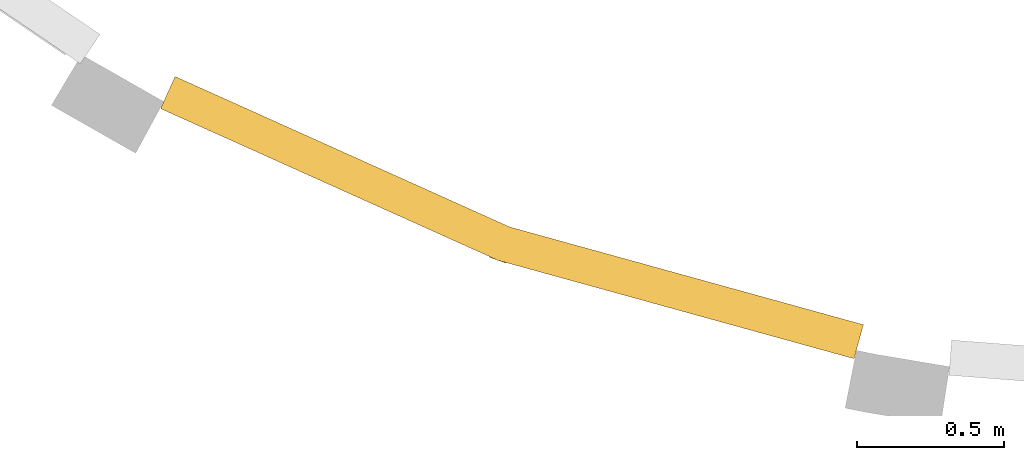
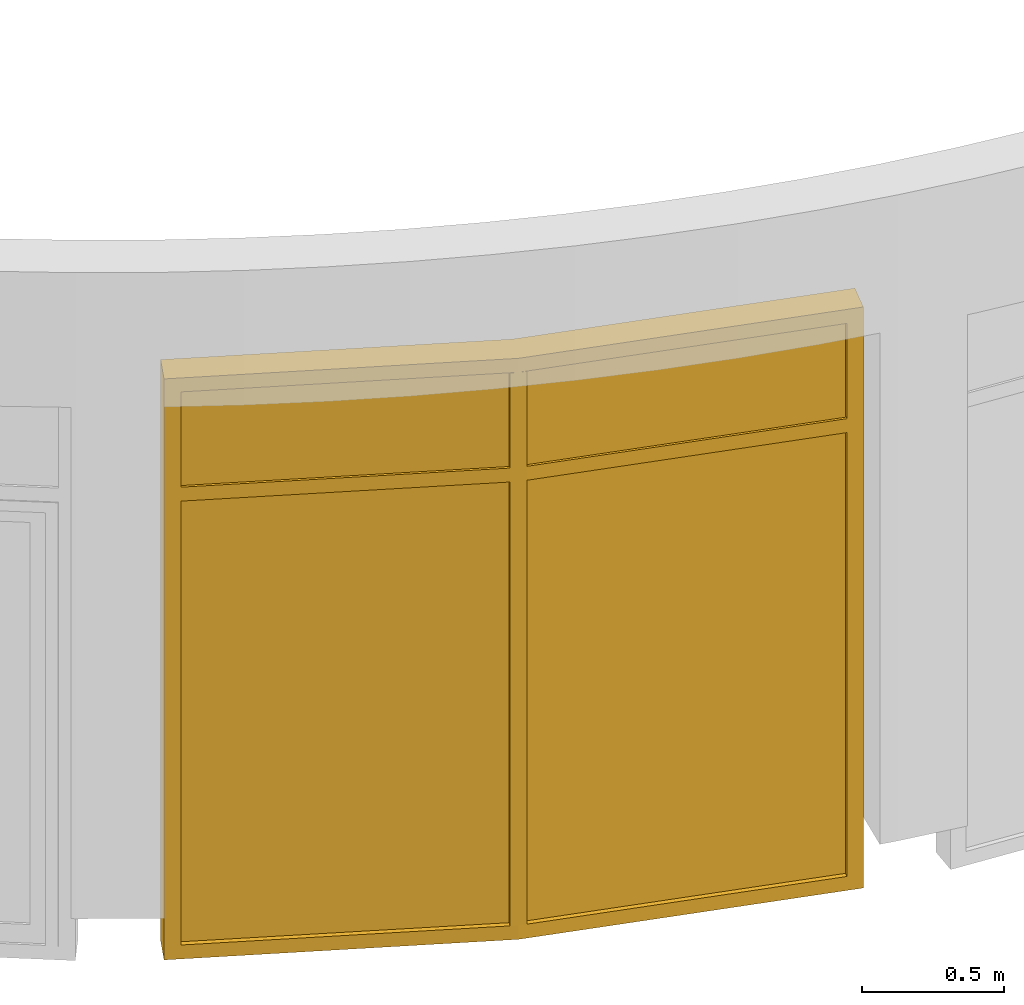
# One storey, part 2 of 7: 1 curtain wall.
"""IFC4 building model written with IfcOpenShell, lengths in millimetres."""

import ifcopenshell
import ifcopenshell.guid

model = None  # the IFC model being written
_history = None  # IfcOwnerHistory: only IFC2X3 demands one
_inside = {}  # id of a spatial element -> (the spatial element, [elements in it])
_under = {}  # id of a project, library or spatial element -> (it, [spatial elements below it])
_declared = {}  # id of a project -> (the project, [libraries it declares])
_typed = {}  # id of a type object -> (the type object, [elements of that type])
_made_of = {}  # id of a material, layer set ... -> (it, [elements and type objects made of it])


def new_model(schema):
    """Start an empty IFC model of exactly this schema.

    Asked for "IFC4X3", IfcOpenShell would pick the latest addendum, in which some entities
    have other attributes; the version numbers below select the first issue.
    IFC2X3 requires an IfcOwnerHistory on every rooted entity: one is made here for all.
    """
    global model, _history
    if schema == "IFC4X3":
        model = ifcopenshell.file(schema_version=(4, 3, 0, 0))
    else:
        model = ifcopenshell.file(schema=schema)
    _inside.clear()
    _under.clear()
    _declared.clear()
    _typed.clear()
    _made_of.clear()
    _history = None
    if model.schema == "IFC2X3":
        org = make("IfcOrganization", Name="unknown")
        user = make(
            "IfcPersonAndOrganization",
            ThePerson=make("IfcPerson", FamilyName="unknown"),
            TheOrganization=org,
        )
        app = make(
            "IfcApplication",
            ApplicationDeveloper=org,
            Version="unknown",
            ApplicationFullName="unknown",
            ApplicationIdentifier="unknown",
        )
        _history = make(
            "IfcOwnerHistory",
            OwningUser=user,
            OwningApplication=app,
            ChangeAction="ADDED",
            CreationDate=0,
        )
    return model


def make(cls, **values):
    """One entity of the class cls with the attributes given. An attribute that is None is left unset."""
    return model.create_entity(
        cls, **{name: value for name, value in values.items() if value is not None}
    )


def entity(cls, *values):
    """Any entity or typed value of the class cls, its attributes in the order of the schema. None: left unset."""
    e = model.create_entity(cls)
    for i, value in enumerate(values):
        if value is not None:
            e[i] = value
    return e


def rooted(cls, **values):
    """An entity with a GlobalId (a new one), such as an element, a storey or a relation."""
    return make(cls, GlobalId=ifcopenshell.guid.new(), OwnerHistory=_history, **values)


def si_unit(unit_type, name, prefix=None):
    """IfcSIUnit, for example si_unit("LENGTHUNIT", "METRE", prefix="MILLI")."""
    return make("IfcSIUnit", UnitType=unit_type, Prefix=prefix, Name=name)


def converted_unit(unit_type, name, factor, base, dimensions=None, offset=None):
    """IfcConversionBasedUnit, such as the inch: factor (a typed value) times the base unit."""
    return make(
        "IfcConversionBasedUnit"
        if offset is None
        else "IfcConversionBasedUnitWithOffset",
        ConversionOffset=offset,
        Dimensions=None
        if dimensions is None
        else entity("IfcDimensionalExponents", *dimensions),
        UnitType=unit_type,
        Name=name,
        ConversionFactor=make(
            "IfcMeasureWithUnit", ValueComponent=factor, UnitComponent=base
        ),
    )


def derived_unit(unit_type, elements):
    """IfcDerivedUnit: a product of units, each with its exponent."""
    return make(
        "IfcDerivedUnit",
        Elements=[
            make("IfcDerivedUnitElement", Unit=unit, Exponent=power)
            for unit, power in elements
        ],
        UnitType=unit_type,
    )


def assignment(units):
    """IfcUnitAssignment: the units of a project."""
    return None if units is None else make("IfcUnitAssignment", Units=units)


def point(xyz):
    """IfcCartesianPoint."""
    return None if xyz is None else make("IfcCartesianPoint", Coordinates=xyz)


def direction(xyz):
    """IfcDirection."""
    return None if xyz is None else make("IfcDirection", DirectionRatios=xyz)


def frame(location, z_axis=None, x_axis=None):
    """IfcAxis2Placement3D, a coordinate frame: its origin and axes. An axis left out is left unset."""
    return make(
        "IfcAxis2Placement3D",
        Location=point(location),
        Axis=direction(z_axis),
        RefDirection=direction(x_axis),
    )


def origin_with_axes():
    """The frame at (0, 0, 0) with the z axis (0, 0, 1) and the x axis (1, 0, 0) written out."""
    return frame((0.0, 0.0, 0.0), z_axis=(0.0, 0.0, 1.0), x_axis=(1.0, 0.0, 0.0))


def place(relative_to, where):
    """IfcLocalPlacement: puts the frame where relative to a parent placement (None: the world)."""
    return make(
        "IfcLocalPlacement", PlacementRelTo=relative_to, RelativePlacement=where
    )


def context(
    kind, dimensions, precision=None, world=None, true_north=None, identifier=None
):
    """IfcGeometricRepresentationContext, for example the 3D "Model" context."""
    return make(
        "IfcGeometricRepresentationContext",
        ContextIdentifier=identifier,
        ContextType=kind,
        CoordinateSpaceDimension=dimensions,
        Precision=precision,
        WorldCoordinateSystem=world,
        TrueNorth=true_north,
    )


def subcontext(parent, identifier, kind, view, scale=None):
    """IfcGeometricRepresentationSubContext, for example "Body" below "Model"."""
    return make(
        "IfcGeometricRepresentationSubContext",
        ContextIdentifier=identifier,
        ContextType=kind,
        ParentContext=parent,
        TargetScale=scale,
        TargetView=view,
    )


def project(units=None, contexts=None):
    """IfcProject with its units and contexts."""
    return rooted(
        "IfcProject",
        Name="project",
        RepresentationContexts=contexts,
        UnitsInContext=assignment(units),
    )


def spatial(cls, under=None, at=None, **own):
    """A site, building, storey or space (cls), placed at a placement, below another one or the project."""
    s = rooted(cls, ObjectPlacement=at, **own)
    if under is not None:
        _under.setdefault(under.id(), (under, []))[1].append(s)
    return s


def point_list(points):
    """IfcCartesianPointList2D or 3D."""
    cls = (
        "IfcCartesianPointList2D" if len(points[0]) == 2 else "IfcCartesianPointList3D"
    )
    return make(cls, CoordList=points)


def polygons(points, faces, closed=None, point_numbers=None):
    """IfcPolygonalFaceSet: a face is its outer loop, then its inner loops; points numbered from 1."""
    made = []
    for loops in faces:
        if len(loops) == 1:
            made.append(make("IfcIndexedPolygonalFace", CoordIndex=loops[0]))
        else:
            made.append(
                make(
                    "IfcIndexedPolygonalFaceWithVoids",
                    CoordIndex=loops[0],
                    InnerCoordIndices=loops[1:],
                )
            )
    return make(
        "IfcPolygonalFaceSet",
        Coordinates=point_list(points),
        Closed=closed,
        Faces=made,
        PnIndex=point_numbers,
    )


def shape(context_of_items, identifier, shape_type, items):
    """IfcShapeRepresentation: the items that make up one representation, for example the "Body"."""
    return make(
        "IfcShapeRepresentation",
        ContextOfItems=context_of_items,
        RepresentationIdentifier=identifier,
        RepresentationType=shape_type,
        Items=items,
    )


def material(Name=None, Category=None):
    """IfcMaterial."""
    return make("IfcMaterial", Name=Name, Category=Category)


def constituent(of_material, Name=None, Category=None, fraction=None):
    """IfcMaterialConstituent: one of the materials an element consists of."""
    return make(
        "IfcMaterialConstituent",
        Name=Name,
        Material=of_material,
        Fraction=fraction,
        Category=Category,
    )


def constituent_set(constituents=None, Name=None):
    """IfcMaterialConstituentSet."""
    return make(
        "IfcMaterialConstituentSet", Name=Name, MaterialConstituents=constituents
    )


def made_of(thing, what):
    """Note that an element or type object is made of a material, layer set ...; save() writes the relation."""
    if what is not None:
        _made_of.setdefault(what.id(), (what, []))[1].append(thing)
    return thing


def type_object(cls, material=None, **own):
    """A type object (cls), such as IfcWallType, which elements share."""
    return made_of(rooted(cls, **own), material)


def element(
    cls,
    number,
    at=None,
    inside=None,
    cuts=None,
    type_object=None,
    material=None,
    context=None,
    identifier="Body",
    shape_type=None,
    held_by="IfcProductDefinitionShape",
    body=None,
    shapes=None,
    **own,
):
    """One element of the class cls, such as IfcWall. Its Tag is "e" and its number.

    at: its placement. inside: the storey or other place that contains it. cuts: it is an
    opening in that element (IfcRelVoidsElement). A single representation is given by context,
    identifier, shape_type and body (its items); several are given by shapes. held_by: the class
    of the entity that holds the representations. save() writes the other relations.
    """
    e = rooted(cls, Tag="e%d" % number, ObjectPlacement=at, **own)
    if body is not None:
        shapes = [shape(context, identifier, shape_type, body)]
    if shapes is not None:
        e.Representation = make(held_by, Representations=shapes)
    if inside is not None:
        _inside.setdefault(inside.id(), (inside, []))[1].append(e)
    if cuts is not None:
        rooted(
            "IfcRelVoidsElement", RelatingBuildingElement=cuts, RelatedOpeningElement=e
        )
    if type_object is not None:
        _typed.setdefault(type_object.id(), (type_object, []))[1].append(e)
    return made_of(e, material)


def aggregate(whole, parts):
    """IfcRelAggregates: a whole, such as a stair, and the parts it consists of."""
    return rooted("IfcRelAggregates", RelatingObject=whole, RelatedObjects=parts)


def save(model, path):
    """Write the relations noted so far, then the file.

    IfcRelAggregates (storeys below a building ...), IfcRelContainedInSpatialStructure (elements
    in a storey), IfcRelDefinesByType, IfcRelAssociatesMaterial and IfcRelDeclares: one each for
    every whole, place, type object, material and project.
    """
    for whole, parts in _under.values():
        aggregate(whole, parts)
    for where, things in _inside.values():
        rooted(
            "IfcRelContainedInSpatialStructure",
            RelatedElements=things,
            RelatingStructure=where,
        )
    for kind, things in _typed.values():
        rooted("IfcRelDefinesByType", RelatedObjects=things, RelatingType=kind)
    for what, things in _made_of.values():
        rooted("IfcRelAssociatesMaterial", RelatedObjects=things, RelatingMaterial=what)
    for by, libraries in _declared.values():
        rooted("IfcRelDeclares", RelatingContext=by, RelatedDefinitions=libraries)
    model.write(path)


model = new_model("IFC4")

# Units and contexts
model_context = context("Model", 3, precision=0.01, world=origin_with_axes(), true_north=direction((0.0, 1.0)))
body_context = subcontext(model_context, "Body", "Model", "MODEL_VIEW")
ifc_project = project(units=[si_unit("LENGTHUNIT", "METRE", prefix="MILLI"), si_unit("AREAUNIT", "SQUARE_METRE"), si_unit("VOLUMEUNIT", "CUBIC_METRE"), converted_unit("PLANEANGLEUNIT", "DEGREE", entity("IfcPlaneAngleMeasure", 0.0174532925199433), si_unit("PLANEANGLEUNIT", "RADIAN"), dimensions=[0, 0, 0, 0, 0, 0, 0]), converted_unit("TIMEUNIT", "Year", entity("IfcTimeMeasure", 31557600.0), si_unit("TIMEUNIT", "SECOND"), dimensions=[0, 0, 1, 0, 0, 0, 0]), si_unit("MASSUNIT", "GRAM", prefix="KILO"), si_unit("THERMODYNAMICTEMPERATUREUNIT", "DEGREE_CELSIUS"), si_unit("LUMINOUSINTENSITYUNIT", "LUMEN"), si_unit("ENERGYUNIT", "JOULE", prefix="MEGA"), derived_unit("THERMALCONDUCTANCEUNIT", [(si_unit("POWERUNIT", "WATT"), 1), (si_unit("LENGTHUNIT", "METRE"), -1), (si_unit("THERMODYNAMICTEMPERATUREUNIT", "KELVIN"), -1)]), derived_unit("SPECIFICHEATCAPACITYUNIT", [(si_unit("ENERGYUNIT", "JOULE"), 1), (si_unit("MASSUNIT", "GRAM", prefix="KILO"), -1), (si_unit("THERMODYNAMICTEMPERATUREUNIT", "KELVIN"), -1)]), derived_unit("MASSDENSITYUNIT", [(si_unit("MASSUNIT", "GRAM", prefix="KILO"), 1), (si_unit("VOLUMEUNIT", "CUBIC_METRE"), -1)])], contexts=[model_context])

# Site, building, storey
site_placement = place(None, origin_with_axes())
site = spatial("IfcSite", under=ifc_project, at=site_placement, Name="Exteriér", CompositionType="ELEMENT")
building_placement = place(site_placement, origin_with_axes())
building = spatial("IfcBuilding", under=site, at=building_placement, Name="Univerzitní lezecké centrum", CompositionType="ELEMENT")
storey_placement = place(building_placement, origin_with_axes())
storey = spatial("IfcBuildingStorey", under=building, at=storey_placement, Name="1.NP", CompositionType="ELEMENT", Elevation=0.0)

# Curtain wall
ifc_material_1 = material(Name="Sklo")
ifc_constituent_1 = constituent(ifc_material_1, Name="Sklo 1")
ifc_constituent_2 = constituent(ifc_material_1, Name="Sklo 2")
ifc_constituent_3 = constituent(ifc_material_1, Name="Sklo 3")
ifc_constituent_4 = constituent(ifc_material_1, Name="Sklo 4")
ifc_material_2 = material(Name="Hliník")
ifc_constituent_5 = constituent(ifc_material_2, Name="Hliník 1")
ifc_constituent_6 = constituent(ifc_material_2, Name="Hliník 2")
ifc_constituent_7 = constituent(ifc_material_2, Name="Hliník 3")
ifc_constituent_8 = constituent(ifc_material_2, Name="Hliník 4")
ifc_constituent_9 = constituent(ifc_material_2, Name="Hliník 5")
ifc_constituent_10 = constituent(ifc_material_2, Name="Hliník 6")
ifc_constituent_11 = constituent(ifc_material_2, Name="Hliník 7")
ifc_constituent_12 = constituent(ifc_material_2, Name="Hliník 8")
ifc_constituent_13 = constituent(ifc_material_2, Name="Hliník 9")
ifc_constituent_14 = constituent(ifc_material_2, Name="Hliník 10")
ifc_constituent_15 = constituent(ifc_material_2, Name="Hliník 11")
ifc_constituent_16 = constituent(ifc_material_2, Name="Hliník 12")
ifc_constituent_set = constituent_set(constituents=[ifc_constituent_1, ifc_constituent_2, ifc_constituent_3, ifc_constituent_4, ifc_constituent_5, ifc_constituent_6, ifc_constituent_7, ifc_constituent_8, ifc_constituent_9, ifc_constituent_10, ifc_constituent_11, ifc_constituent_12, ifc_constituent_13, ifc_constituent_14, ifc_constituent_15, ifc_constituent_16])
curtain_wall_type = type_object("IfcCurtainWallType", Name="Typ lehkého obvodového pláště", PredefinedType="NOTDEFINED")
curtain_wall_placement = place(storey_placement, frame((-896.9609954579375, -7757.952800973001, 0.0), z_axis=(0.0, 0.0, 1.0), x_axis=(1.0, 0.0, 0.0)))
element("IfcCurtainWall", 1, at=curtain_wall_placement, inside=storey, type_object=curtain_wall_type, material=ifc_constituent_set, Name="LOP01", PredefinedType="NOTDEFINED", context=body_context, shape_type="Tessellation", body=[
    polygons([(575.7231105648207, -247.9418033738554, 2469.999973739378), (-540.239910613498, 253.9140802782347, 2469.999973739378), (-548.4427526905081, 235.6736476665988, 2469.999973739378), (567.5202684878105, -266.1822359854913, 2469.999973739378), (575.7231105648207, -247.9418033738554, 2002.999991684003), (-540.239910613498, 253.9140802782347, 2002.999991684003), (-548.4427526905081, 235.6736476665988, 2002.999991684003), (567.5202684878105, -266.1822359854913, 2002.999991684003)], [[[1, 2, 3, 4]], [[1, 5, 6, 2]], [[2, 6, 7, 3]], [[4, 3, 7, 8]], [[5, 1, 4, 8]], [[6, 5, 8, 7]]], closed=True),
    polygons([(575.723114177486, -247.9418049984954, 1997.00000596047), (-540.2399029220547, 253.914076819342, 1997.00000596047), (-548.4427449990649, 235.6736442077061, 1997.00000596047), (567.5202721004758, -266.1822376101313, 1997.00000596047), (575.723114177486, -247.9418049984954, 30.00000000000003), (-540.2399029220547, 253.914076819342, 30.0), (-548.4427449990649, 235.6736442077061, 30.0), (567.5202721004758, -266.1822376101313, 30.00000000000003)], [[[1, 2, 3, 4]], [[1, 5, 6, 2]], [[2, 6, 7, 3]], [[4, 3, 7, 8]], [[5, 1, 4, 8]], [[6, 5, 8, 7]]], closed=True),
    polygons([(1753.871751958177, -573.3620125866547, 1997.00000596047), (574.4500803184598, -247.482737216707, 1997.00000596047), (569.1235785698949, -266.7604025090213, 1997.00000596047), (1748.545250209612, -592.6396778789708, 1997.00000596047), (1753.871751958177, -573.3620125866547, 30.00000000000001), (574.4500803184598, -247.482737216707, 29.99999999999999), (569.1235785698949, -266.7604025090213, 29.99999999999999), (1748.545250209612, -592.6396778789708, 30.00000000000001)], [[[1, 2, 3, 4]], [[1, 5, 6, 2]], [[2, 6, 7, 3]], [[4, 3, 7, 8]], [[5, 1, 4, 8]], [[6, 5, 8, 7]]], closed=True),
    polygons([(1753.871748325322, -573.3620115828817, 2469.999973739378), (574.4500723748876, -247.4827350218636, 2469.999973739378), (569.1235706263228, -266.7604003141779, 2469.999973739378), (1748.545246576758, -592.6396768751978, 2469.999973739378), (1753.871748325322, -573.3620115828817, 2002.999991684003), (574.4500723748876, -247.4827350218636, 2002.999991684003), (569.1235706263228, -266.7604003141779, 2002.999991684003), (1748.545246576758, -592.6396768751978, 2002.999991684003)], [[[1, 2, 3, 4]], [[1, 5, 6, 2]], [[2, 6, 7, 3]], [[4, 3, 7, 8]], [[5, 1, 4, 8]], [[6, 5, 8, 7]]], closed=True),
    polygons([(575.1041888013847, -247.6634702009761, 30.00000000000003), (568.2997569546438, -266.5327770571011, 30.00000000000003), (568.2997569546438, -266.5327770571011, 60.00000000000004), (561.4953251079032, -285.4020839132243, 60.00000000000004), (561.4953251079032, -285.4020839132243, 0.0), (602.3219161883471, -172.1862427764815, 0.0), (602.3219161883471, -172.1862427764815, 60.00000000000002), (575.1041888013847, -247.6634702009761, 60.00000000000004), (-540.239902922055, 253.914076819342, 30.0), (-548.4427449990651, 235.6736442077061, 30.0), (-521.0820960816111, 223.3693810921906, 60.0), (-529.2849381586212, 205.1289484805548, 60.00000000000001), (-584.0062359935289, 229.7374747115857, 0.0), (-534.7891835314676, 339.180070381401, 0.0), (-480.0678856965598, 314.57154415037, 59.99999999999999), (-512.8792540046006, 241.6098137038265, 60.0)], [[[1, 2, 3, 4, 5, 6, 7, 8]], [[2, 1, 9, 10]], [[11, 3, 2, 10]], [[3, 11, 12, 4]], [[5, 4, 12, 13]], [[6, 5, 13, 14]], [[7, 6, 14, 15]], [[16, 8, 7, 15]], [[1, 8, 16, 9]], [[9, 16, 15, 14, 13, 12, 11, 10]]], closed=True),
    polygons([(-540.2399029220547, 253.914076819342, 2000.0), (-512.8792540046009, 241.6098137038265, 2000.0), (-480.06788569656, 314.57154415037, 2000.0), (-534.7891835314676, 339.180070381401, 2000.0), (-584.0062359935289, 229.7374747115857, 2000.0), (-529.2849381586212, 205.1289484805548, 2000.0), (-521.0820960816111, 223.3693810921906, 2000.0), (-548.4427449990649, 235.6736442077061, 2000.0), (-540.2399029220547, 253.914076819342, 30.00000000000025), (-512.8792540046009, 241.6098137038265, 59.99999999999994), (-480.06788569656, 314.57154415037, 60.00000000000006), (-534.7891835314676, 339.180070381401, 0.0), (-584.0062359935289, 229.7374747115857, 0.0), (-529.2849381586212, 205.1289484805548, 59.99999999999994), (-521.0820960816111, 223.3693810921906, 59.99999999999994), (-548.4427449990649, 235.6736442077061, 30.00000000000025)], [[[1, 2, 3, 4, 5, 6, 7, 8]], [[1, 9, 10, 2]], [[10, 11, 3, 2]], [[3, 11, 12, 4]], [[4, 12, 13, 5]], [[5, 13, 14, 6]], [[7, 6, 14, 15]], [[15, 16, 8, 7]], [[8, 16, 9, 1]], [[9, 16, 15, 14, 13, 12, 11, 10]]], closed=True),
    polygons([(575.1041888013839, -247.6634702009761, 60.00000000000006), (575.1041888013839, -247.6634702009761, 2000.0), (547.6632504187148, -235.3231003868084, 2000.0), (547.6632504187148, -235.3231003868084, 60.00000000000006), (604.1055418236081, -255.6766686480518, 2000.0), (604.1055418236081, -255.6766686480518, 60.00000000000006), (610.0999027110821, -239.053762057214, 2000.0), (553.6576113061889, -218.7001937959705, 2000.0), (553.6576113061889, -218.7001937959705, 60.00000000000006), (610.0999027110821, -239.053762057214, 60.00000000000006)], [[[1, 2, 3, 4]], [[5, 2, 1, 6]], [[2, 5, 7, 8, 3]], [[3, 8, 9, 4]], [[6, 1, 4, 9, 10]], [[5, 6, 10, 7]], [[7, 10, 9, 8]]], closed=True),
    polygons([(597.3011099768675, -274.5459755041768, 2000.0), (569.1235770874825, -266.7604020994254, 2000.0), (572.0926480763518, -256.0147458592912, 2000.0), (567.5202623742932, -266.1822332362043, 2000.0), (540.8588185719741, -254.1924072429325, 2000.0), (533.3040430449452, -275.1424852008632, 2000.0), (589.7463344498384, -295.4960534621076, 2000.0), (597.3011099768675, -274.5459755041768, 59.99999999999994), (569.1235770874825, -266.7604020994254, 60.00000000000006), (572.0926480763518, -256.0147458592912, 60.00000000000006), (567.5202623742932, -266.1822332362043, 60.00000000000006), (540.8588185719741, -254.1924072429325, 59.99999999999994), (533.3040430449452, -275.1424852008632, 59.99999999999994), (589.7463344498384, -295.4960534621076, 59.99999999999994)], [[[1, 2, 3, 4, 5, 6, 7]], [[2, 1, 8, 9]], [[10, 3, 2, 9]], [[3, 10, 11, 4]], [[5, 4, 11, 12]], [[12, 13, 6, 5]], [[6, 13, 14, 7]], [[8, 1, 7, 14]], [[9, 8, 14, 13, 12, 11, 10]]], closed=True),
    polygons([(-540.2399029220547, 253.914076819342, 2469.999966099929), (-512.8792540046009, 241.6098137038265, 2439.999966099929), (-480.06788569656, 314.57154415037, 2439.999966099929), (-534.7891835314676, 339.180070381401, 2499.999966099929), (-584.0062359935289, 229.7374747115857, 2499.999966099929), (-529.2849381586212, 205.1289484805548, 2439.999966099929), (-521.0820960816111, 223.3693810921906, 2439.999966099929), (-548.4427449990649, 235.6736442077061, 2469.999966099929), (-540.2399029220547, 253.914076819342, 2000.0), (-512.8792540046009, 241.6098137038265, 2000.0), (-480.06788569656, 314.57154415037, 2000.0), (-534.7891835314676, 339.180070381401, 2000.0), (-584.0062359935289, 229.7374747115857, 2000.0), (-529.2849381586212, 205.1289484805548, 2000.0), (-521.0820960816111, 223.3693810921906, 2000.0), (-548.4427449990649, 235.6736442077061, 2000.0)], [[[1, 2, 3, 4, 5, 6, 7, 8]], [[1, 9, 10, 2]], [[10, 11, 3, 2]], [[11, 12, 4, 3]], [[12, 13, 5, 4]], [[13, 14, 6, 5]], [[7, 6, 14, 15]], [[15, 16, 8, 7]], [[8, 16, 9, 1]], [[9, 16, 15, 14, 13, 12, 11, 10]]], closed=True),
    polygons([(575.1041888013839, -247.6634702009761, 2000.0), (575.1041888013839, -247.6634702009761, 2439.999966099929), (547.6632504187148, -235.3231003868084, 2439.999966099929), (547.6632504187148, -235.3231003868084, 2000.0), (604.1055418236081, -255.6766686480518, 2439.999966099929), (604.1055418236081, -255.6766686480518, 2000.0), (610.0999027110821, -239.053762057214, 2439.999966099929), (553.6576113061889, -218.7001937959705, 2439.999966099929), (553.6576113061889, -218.7001937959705, 2000.0), (610.0999027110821, -239.053762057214, 2000.0)], [[[1, 2, 3, 4]], [[5, 2, 1, 6]], [[2, 5, 7, 8, 3]], [[3, 8, 9, 4]], [[6, 1, 4, 9, 10]], [[5, 6, 10, 7]], [[8, 7, 10, 9]]], closed=True),
    polygons([(597.3011099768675, -274.5459755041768, 2439.999966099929), (569.1235770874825, -266.7604020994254, 2439.999966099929), (572.0926480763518, -256.0147458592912, 2439.999966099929), (567.5202623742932, -266.1822332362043, 2439.999966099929), (540.8588185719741, -254.1924072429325, 2439.999966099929), (533.3040430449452, -275.1424852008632, 2439.999966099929), (589.7463344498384, -295.4960534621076, 2439.999966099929), (597.3011099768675, -274.5459755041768, 2000.0), (569.1235770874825, -266.7604020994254, 2000.0), (572.0926480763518, -256.0147458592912, 2000.0), (567.5202623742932, -266.1822332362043, 2000.0), (540.8588185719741, -254.1924072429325, 2000.0), (533.3040430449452, -275.1424852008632, 2000.0), (589.7463344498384, -295.4960534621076, 2000.0)], [[[1, 2, 3, 4, 5, 6, 7]], [[2, 1, 8, 9]], [[10, 3, 2, 9]], [[3, 10, 11, 4]], [[5, 4, 11, 12]], [[12, 13, 6, 5]], [[7, 6, 13, 14]], [[8, 1, 7, 14]], [[9, 8, 14, 13, 12, 11, 10]]], closed=True),
    polygons([(550.9849412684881, -225.8522343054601, 1997.0), (550.9849412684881, -225.8522343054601, 1970.0), (554.3871571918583, -216.4175808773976, 1970.0), (554.3871571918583, -216.4175808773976, 2030.0), (550.9849412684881, -225.8522343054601, 2030.0), (550.9849412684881, -225.8522343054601, 2003.0), (537.3760775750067, -263.5908480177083, 2003.0), (537.3760775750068, -263.5908480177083, 2030.0), (533.9738616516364, -273.025501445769, 2030.0), (533.9738616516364, -273.025501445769, 1970.0), (537.3760775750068, -263.5908480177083, 1970.0), (537.3760775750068, -263.5908480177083, 1997.0), (-508.7778329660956, 250.7300300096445, 1997.0), (-508.7778329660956, 250.7300300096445, 1970.0), (-504.6764119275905, 259.8502463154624, 1970.0), (-504.6764119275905, 259.8502463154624, 2030.0), (-508.7778329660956, 250.7300300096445, 2030.0), (-508.7778329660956, 250.7300300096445, 2003.0), (-525.1835171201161, 214.2491647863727, 2003.0), (-525.1835171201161, 214.2491647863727, 2030.0), (-529.2849381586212, 205.1289484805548, 2030.0), (-529.2849381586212, 205.1289484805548, 1970.0), (-525.1835171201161, 214.2491647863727, 1970.0), (-525.1835171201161, 214.2491647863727, 1997.0)], [[[1, 2, 3, 4, 5, 6, 7, 8, 9, 10, 11, 12]], [[2, 1, 13, 14]], [[2, 14, 15, 3]], [[3, 15, 16, 4]], [[5, 4, 16, 17]], [[5, 17, 18, 6]], [[6, 18, 19, 7]], [[8, 7, 19, 20]], [[20, 21, 9, 8]], [[9, 21, 22, 10]], [[23, 11, 10, 22]], [[12, 11, 23, 24]], [[1, 12, 24, 13]], [[24, 23, 22, 21, 20, 19, 18, 17, 16, 15, 14, 13]]], closed=True),
    polygons([(575.104188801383, -247.6634702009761, 2469.999966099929), (575.104188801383, -247.6634702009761, 2439.999966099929), (602.3219161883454, -172.1862427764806, 2439.999966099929), (602.3219161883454, -172.1862427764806, 2499.999966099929), (561.4953251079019, -285.4020839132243, 2499.999966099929), (561.4953251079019, -285.4020839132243, 2439.999966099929), (568.2997569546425, -266.5327770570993, 2439.999966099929), (568.2997569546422, -266.5327770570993, 2469.999966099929), (-540.2399029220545, 253.914076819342, 2469.999966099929), (-512.8792540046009, 241.6098137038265, 2439.999966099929), (-480.0678856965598, 314.57154415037, 2439.999966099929), (-534.7891835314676, 339.180070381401, 2499.999966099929), (-584.0062359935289, 229.7374747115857, 2499.999966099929), (-529.2849381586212, 205.1289484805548, 2439.999966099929), (-521.0820960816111, 223.3693810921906, 2439.999966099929), (-548.4427449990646, 235.6736442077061, 2469.999966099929)], [[[1, 2, 3, 4, 5, 6, 7, 8]], [[1, 9, 10, 2]], [[10, 11, 3, 2]], [[3, 11, 12, 4]], [[4, 12, 13, 5]], [[5, 13, 14, 6]], [[7, 6, 14, 15]], [[15, 16, 8, 7]], [[8, 16, 9, 1]], [[9, 16, 15, 14, 13, 12, 11, 10]]], closed=True),
    polygons([(1753.871740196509, -573.3620093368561, 2000.0), (1748.545238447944, -592.6396746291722, 2000.0), (1719.628740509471, -584.6499220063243, 2000.0), (1714.302238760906, -603.9275872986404, 2000.0), (1772.135234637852, -619.9070925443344, 2000.0), (1804.094245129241, -504.2411007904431, 2000.0), (1746.261249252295, -488.2615955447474, 2000.0), (1724.955242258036, -565.3722567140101, 2000.0), (1753.871740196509, -573.3620093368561, 30.00000000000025), (1748.545238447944, -592.6396746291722, 30.00000000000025), (1719.628740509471, -584.6499220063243, 59.99999999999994), (1714.302238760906, -603.9275872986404, 59.99999999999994), (1772.135234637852, -619.9070925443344, 0.0), (1804.094245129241, -504.2411007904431, 0.0), (1746.261249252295, -488.2615955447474, 60.00000000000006), (1724.955242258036, -565.3722567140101, 59.99999999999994)], [[[1, 2, 3, 4, 5, 6, 7, 8]], [[2, 1, 9, 10]], [[11, 3, 2, 10]], [[3, 11, 12, 4]], [[5, 4, 12, 13]], [[6, 5, 13, 14]], [[7, 6, 14, 15]], [[16, 8, 7, 15]], [[1, 8, 16, 9]], [[9, 16, 15, 14, 13, 12, 11, 10]]], closed=True),
    polygons([(1753.871740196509, -573.3620093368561, 2469.999914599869), (1748.545238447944, -592.6396746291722, 2469.999914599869), (1719.628740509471, -584.6499220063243, 2439.999914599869), (1714.302238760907, -603.9275872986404, 2439.999914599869), (1772.135234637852, -619.9070925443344, 2499.999914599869), (1804.094245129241, -504.2411007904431, 2499.999914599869), (1746.261249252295, -488.2615955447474, 2439.999914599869), (1724.955242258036, -565.3722567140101, 2439.999914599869), (1753.871740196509, -573.3620093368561, 2000.0), (1748.545238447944, -592.6396746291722, 2000.0), (1719.628740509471, -584.6499220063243, 2000.0), (1714.302238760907, -603.9275872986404, 2000.0), (1772.135234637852, -619.9070925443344, 2000.0), (1804.094245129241, -504.2411007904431, 2000.0), (1746.261249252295, -488.2615955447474, 2000.0), (1724.955242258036, -565.3722567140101, 2000.0)], [[[1, 2, 3, 4, 5, 6, 7, 8]], [[2, 1, 9, 10]], [[11, 3, 2, 10]], [[3, 11, 12, 4]], [[13, 5, 4, 12]], [[14, 6, 5, 13]], [[15, 7, 6, 14]], [[16, 8, 7, 15]], [[1, 8, 16, 9]], [[9, 16, 15, 14, 13, 12, 11, 10]]], closed=True),
    polygons([(1753.871740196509, -573.3620093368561, 30.00000000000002), (1748.545238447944, -592.6396746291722, 30.00000000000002), (1719.628740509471, -584.6499220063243, 60.00000000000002), (1714.302238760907, -603.9275872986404, 60.00000000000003), (1772.135234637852, -619.9070925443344, 0.0), (1804.094245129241, -504.2411007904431, 0.0), (1746.261249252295, -488.2615955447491, 60.00000000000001), (1724.955242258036, -565.3722567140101, 60.00000000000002), (575.1041888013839, -247.6634702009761, 30.0), (568.299756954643, -266.5327770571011, 30.0), (568.2997569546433, -266.5327770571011, 60.0), (561.4953251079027, -285.4020839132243, 60.00000000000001), (561.4953251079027, -285.4020839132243, 0.0), (602.3219161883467, -172.1862427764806, 0.0), (602.3219161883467, -172.1862427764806, 59.99999999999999), (575.1041888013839, -247.6634702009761, 60.0)], [[[1, 2, 3, 4, 5, 6, 7, 8]], [[2, 1, 9, 10]], [[11, 3, 2, 10]], [[3, 11, 12, 4]], [[5, 4, 12, 13]], [[6, 5, 13, 14]], [[7, 6, 14, 15]], [[16, 8, 7, 15]], [[1, 8, 16, 9]], [[9, 16, 15, 14, 13, 12, 11, 10]]], closed=True),
    polygons([(1727.618493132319, -555.733424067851, 1997.0), (1727.618493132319, -555.733424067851, 1970.0), (1730.281744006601, -546.094591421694, 1970.0), (1730.281744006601, -546.094591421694, 2030.0), (1727.618493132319, -555.733424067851, 2030.0), (1727.618493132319, -555.733424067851, 2003.0), (1716.965489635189, -594.2887546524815, 2003.0), (1716.965489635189, -594.2887546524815, 2030.0), (1714.302238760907, -603.9275872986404, 2030.0), (1714.302238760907, -603.9275872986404, 1970.0), (1716.965489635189, -594.2887546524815, 1970.0), (1716.965489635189, -594.2887546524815, 1997.0), (607.5928618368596, -246.2655298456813, 1997.0), (607.5928618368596, -246.2655298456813, 1970.0), (610.99507776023, -236.8308764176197, 1970.0), (610.99507776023, -236.8308764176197, 2030.0), (607.5928618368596, -246.2655298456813, 2030.0), (607.5928618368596, -246.2655298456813, 2003.0), (593.9839981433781, -284.0041435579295, 2003.0), (593.9839981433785, -284.0041435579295, 2030.0), (590.5817822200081, -293.438796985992, 2030.0), (590.5817822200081, -293.438796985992, 1970.0), (593.9839981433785, -284.0041435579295, 1970.0), (593.9839981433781, -284.0041435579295, 1997.0)], [[[1, 2, 3, 4, 5, 6, 7, 8, 9, 10, 11, 12]], [[2, 1, 13, 14]], [[2, 14, 15, 3]], [[3, 15, 16, 4]], [[5, 4, 16, 17]], [[5, 17, 18, 6]], [[6, 18, 19, 7]], [[8, 7, 19, 20]], [[20, 21, 9, 8]], [[9, 21, 22, 10]], [[23, 11, 10, 22]], [[12, 11, 23, 24]], [[1, 12, 24, 13]], [[24, 23, 22, 21, 20, 19, 18, 17, 16, 15, 14, 13]]], closed=True),
    polygons([(1753.871740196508, -573.3620093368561, 2469.999966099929), (1724.955242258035, -565.3722567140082, 2439.999966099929), (1746.261249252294, -488.2615955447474, 2439.999966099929), (1804.09424512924, -504.2411007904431, 2499.999966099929), (1772.135234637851, -619.9070925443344, 2499.999966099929), (1714.302238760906, -603.9275872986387, 2439.999966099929), (1719.628740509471, -584.6499220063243, 2439.999966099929), (1748.545238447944, -592.6396746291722, 2469.999966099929), (575.1041888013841, -247.6634702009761, 2469.999966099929), (575.1041888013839, -247.6634702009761, 2439.999966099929), (602.3219161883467, -172.1862427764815, 2439.999966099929), (602.3219161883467, -172.1862427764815, 2499.999966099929), (561.4953251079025, -285.4020839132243, 2499.999966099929), (561.4953251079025, -285.4020839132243, 2439.999966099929), (568.2997569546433, -266.5327770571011, 2439.999966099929), (568.299756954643, -266.5327770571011, 2469.999966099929)], [[[1, 2, 3, 4, 5, 6, 7, 8]], [[1, 9, 10, 2]], [[10, 11, 3, 2]], [[3, 11, 12, 4]], [[4, 12, 13, 5]], [[5, 13, 14, 6]], [[7, 6, 14, 15]], [[15, 16, 8, 7]], [[8, 16, 9, 1]], [[9, 16, 15, 14, 13, 12, 11, 10]]], closed=True),
])

save(model, "model.ifc")
